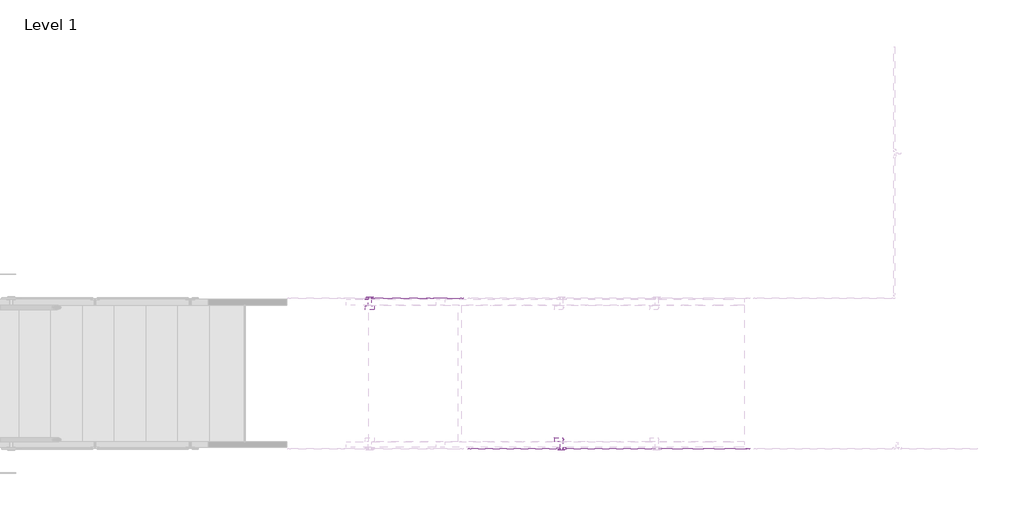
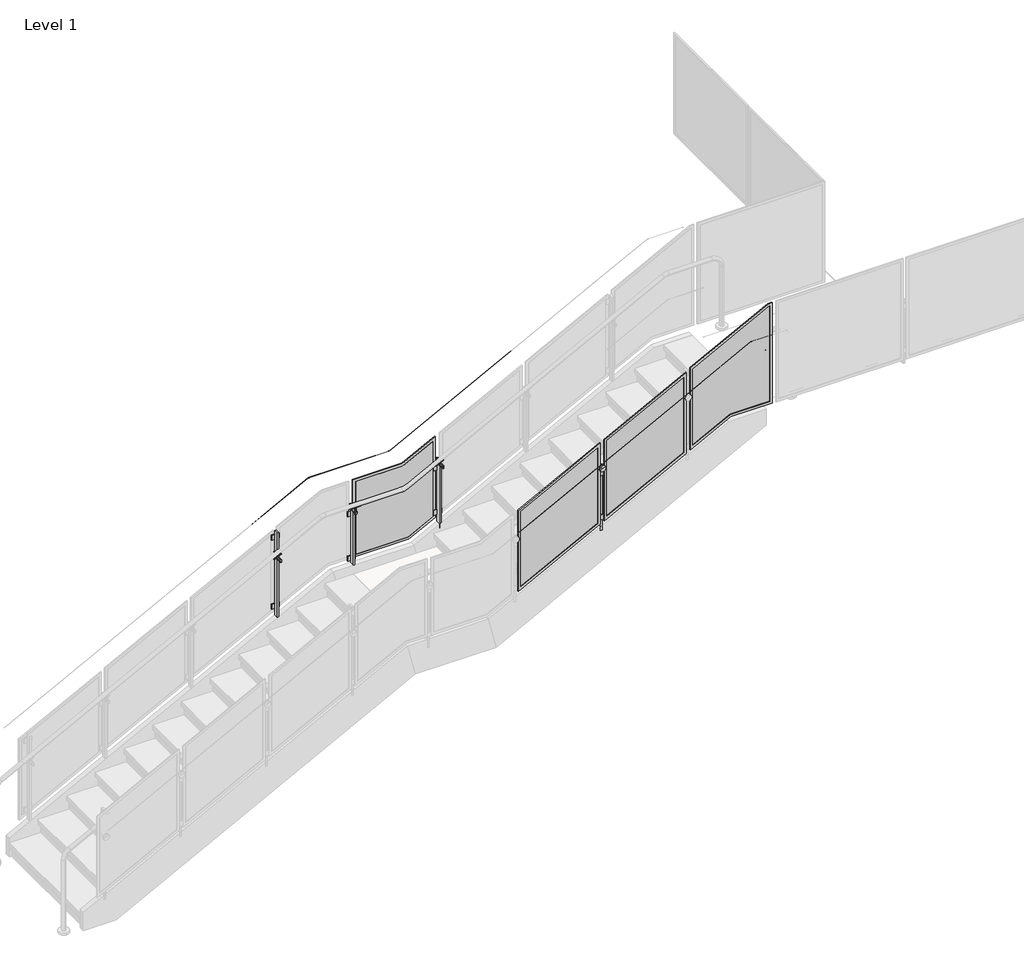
# One storey, part 7 of 28: 4 railings.
"""IFC4 building model written with IfcOpenShell, lengths in millimetres."""

from ifc_helpers import new_model, si_unit, point, frame, frame_2d, origin, place, context, project, spatial, polyline, circle_curve, ellipse_curve, trimmed, segment, composite_curve, outline, extrude, transform, mapped, element, save
from ifc_brep_helpers import plane_surface, cylinder_surface, advanced_brep
from components import standard_pp01_3f05e8e4, standard_pp01_bbce697f

model = new_model("IFC4")

# Units and contexts
model_context = context("Model", 3, world=origin())
ifc_project = project(units=[si_unit("LENGTHUNIT", "METRE", prefix="MILLI")], contexts=[model_context])

# Site, building, storey
site = spatial("IfcSite", under=ifc_project)
building = spatial("IfcBuilding", under=site)
storey = spatial("IfcBuildingStorey", under=building, Name="Level 1", Elevation=0.0)

# Railings
placement = place(None, origin())
element("IfcRailing", 1, ObjectType="Metal-Panel-VIVA-STRUC-Slab-Top-Weld-Stairs-Upper", at=placement, inside=storey, context=model_context, shape_type="SolidModel", body=[
    advanced_brep(
    [(-14795.2265621, -31698.1375116, 2849.6818907), (-14795.2265621, -31697.1375116, 2849.6818907), (-13118.8265621, -31698.1375116, 3720.5390336), (-13118.8265621, -31697.1375116, 3720.5390336)],
    [
        (0, 1, ellipse_curve(frame((-14795.2265621, -31697.6375116, 2849.6818907), z_axis=(-1.0, 0.0, 0.0), x_axis=(0.0, 0.0, -1.0)), 0.5634403, 0.5)),
        (1, 0, ellipse_curve(frame((-14795.2265621, -31697.6375116, 2849.6818907), z_axis=(-1.0, 0.0, 0.0), x_axis=(0.0, 0.0, -1.0)), 0.5634403, 0.5)),
        (2, 3, ellipse_curve(frame((-13118.8265621, -31697.6375116, 3720.5390336), z_axis=(1.0, 0.0, 0.0), x_axis=(0.0, 0.0, -1.0)), 0.5634403, 0.5)),
        (3, 2, ellipse_curve(frame((-13118.8265621, -31697.6375116, 3720.5390336), z_axis=(1.0, 0.0, 0.0), x_axis=(0.0, 0.0, -1.0)), 0.5634403, 0.5)),
        (0, 2),
        (3, 1),
    ],
    [
        plane_surface(frame((-14795.2265621, -31697.6375116, 2850.2453311), z_axis=(-1.0, 0.0, 0.0), x_axis=(0.0, 1.0, 0.0))),
        plane_surface(frame((-13118.8265621, -31697.6375116, 3721.1024739), z_axis=(1.0, 0.0, 0.0), x_axis=(0.0, 1.0, 0.0))),
        cylinder_surface(frame((-14794.9960672, -31697.6375116, 2849.8016284), z_axis=(-0.8874054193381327, 0.0, -0.46098982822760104), x_axis=(0.0, 1.0, 0.0)), 0.5),
    ],
    [
        (0, [[1, 2]]),
        (1, [[3, 4]]),
        (2, [[-1, 5, -4, 6]]),
        (2, [[-2, -6, -3, -5]]),
    ],
),
    extrude(outline(polyline([(3277.7457144, -13912.5806052), (2501.7575082, -13912.5806052), (2891.008462, -13163.2725191), (3666.9966682, -13163.2725191), (3277.7457144, -13912.5806052)])), frame((0.0, -31482.9865116, 0.0), z_axis=(0.0, 1.0, 0.0), x_axis=(0.0, 0.0, 1.0)), (0.0, 0.0, 1.0), 3.0),
    extrude(outline(polyline([(2459.9399344, -13937.9806052), (2875.5804986, -13137.8725191), (3708.8142421, -13137.8725191), (3293.1736778, -13937.9806052), (2459.9399344, -13937.9806052)]), holes=[polyline([(3277.7457144, -13912.5806052), (3666.9966682, -13163.2725191), (2891.008462, -13163.2725191), (2501.7575082, -13912.5806052), (3277.7457144, -13912.5806052)])]), frame((0.0, -31489.5115116, 0.0), z_axis=(0.0, 1.0, 0.0), x_axis=(0.0, 0.0, 1.0)), (0.0, 0.0, 1.0), 9.525),
    extrude(outline(polyline([(-13995.1272814, -31472.8759116), (-13918.9258429, -31472.8759116), (-13918.9258429, -31479.9879116), (-13995.1272814, -31479.9879116), (-13995.1272814, -31472.8759116)])), frame((0.0, 0.0, 2928.5499025), z_axis=(0.0, 0.0, 1.0), x_axis=(1.0, 0.0, 0.0)), (0.0, 0.0, 1.0), 50.8),
    extrude(outline(polyline([(-13995.1272814, -31472.8759116), (-13918.9258429, -31472.8759116), (-13918.9258429, -31479.9879116), (-13995.1272814, -31479.9879116), (-13995.1272814, -31472.8759116)])), frame((0.0, 0.0, 2471.3499025), z_axis=(0.0, 0.0, 1.0), x_axis=(1.0, 0.0, 0.0)), (0.0, 0.0, 1.0), 50.8),
    extrude(outline(composite_curve([segment(polyline([(2.9997399, 0.0), (0.0, 0.0)]), True, "CONTINUOUS"), segment(trimmed(circle_curve(frame_2d((-19.0451472, -1e-07)), 19.0451471), [point((0.0, 0.0))], [point((-23.6280664, 18.4855208))], True, "CARTESIAN"), True, "CONTINUOUS"), segment(polyline([(-23.6280664, 18.4855208), (-24.3499073, 21.3971159)]), True, "CONTINUOUS"), segment(trimmed(circle_curve(frame_2d((-19.0451472, -1e-07)), 22.0448871), [point((-24.3499073, 21.3971159))], [point((2.9997399, 0.0))], False, "CARTESIAN"), True, "CONTINUOUS")], self_intersect=False)), frame((-14019.5142726, -31418.7879116, 3044.0256993), z_axis=(0.8874054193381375, 0.0, 0.4609898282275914), x_axis=(0.2840545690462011, -0.7876022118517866, -0.5468050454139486)), (0.0, 0.0, 1.0), 79.1184357),
    advanced_brep(
    [(-13944.6293845, -31403.7879116, 2985.6859356), (-13944.6293845, -31410.9316616, 2985.6859356), (-13944.6293845, -31396.6441616, 2985.6859356), (-13980.4886307, -31410.9316616, 3054.7149846), (-13980.4886307, -31403.7879116, 3054.7149846), (-13980.4886307, -31396.6441616, 3054.7149846)],
    [
        (0, 1),
        (1, 2, circle_curve(frame((-13944.6293845, -31403.7879116, 2985.6859356), z_axis=(0.46098982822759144, 0.0, -0.8874054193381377), x_axis=(0.0, 1.0000000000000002, 0.0)), 7.14375)),
        (2, 0),
        (3, 4),
        (4, 5),
        (5, 3, circle_curve(frame((-13980.4886307, -31403.7879116, 3054.7149846), z_axis=(-0.46098982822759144, 0.0, 0.8874054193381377), x_axis=(0.0, 1.0000000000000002, 0.0)), 7.14375)),
        (2, 1, circle_curve(frame((-13944.6293845, -31403.7879116, 2985.6859356), z_axis=(0.46098982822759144, 0.0, -0.8874054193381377), x_axis=(0.0, 1.0000000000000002, 0.0)), 7.14375)),
        (3, 5, circle_curve(frame((-13980.4886307, -31403.7879116, 3054.7149846), z_axis=(-0.46098982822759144, 0.0, 0.8874054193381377), x_axis=(0.0, 1.0000000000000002, 0.0)), 7.14375)),
        (1, 3),
        (5, 2),
    ],
    [
        plane_surface(frame((-13944.6293845, -31403.7879116, 2985.6859356), z_axis=(0.46098982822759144, 0.0, -0.8874054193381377), x_axis=(0.0, 1.0, 0.0))),
        plane_surface(frame((-13980.4886307, -31403.7879116, 3054.7149846), z_axis=(-0.46098982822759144, 0.0, 0.8874054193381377), x_axis=(0.0, 1.0, 0.0))),
        cylinder_surface(frame((-13827.6751846, -31403.7879116, 2760.5491008), z_axis=(0.46098982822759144, 0.0, -0.8874054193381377), x_axis=(0.0, 1.0000000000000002, 0.0)), 7.14375),
    ],
    [
        (0, [[1, 2, 3]]),
        (1, [[4, 5, 6]]),
        (0, [[-3, 7, -1]]),
        (1, [[-5, -4, 8]]),
        (2, [[9, -6, 10, -2]]),
        (2, [[-10, -8, -9, -7]]),
    ],
),
    advanced_brep(
    [(-13983.7929281, -31489.5129116, 2995.6458968), (-13962.6615865, -31489.5129116, 3006.6232171), (-13951.3915377, -31489.5129116, 3012.4777879), (-13930.2601962, -31489.5129116, 3023.4551082), (-13983.7929281, -31497.4504116, 2995.6458968), (-13930.2601962, -31497.4504116, 3023.4551082), (-13983.7929281, -31472.0504116, 2995.6458968), (-13968.2966109, -31472.0504116, 3003.6959317), (-13945.7565133, -31472.0504116, 3015.4050733), (-13930.2601962, -31472.0504116, 3023.4551082), (-13983.7929281, -31479.9879116, 2995.6458968), (-13930.2601962, -31479.9879116, 3023.4551082), (-13957.0265621, -31497.4504116, 3009.5505025), (-13968.2966109, -31392.6754116, 3003.6959317), (-13957.0265621, -31392.6754116, 3009.5505025), (-13945.7565133, -31392.6754116, 3015.4050733), (-13962.6615865, -31479.9879116, 3006.6232171), (-13951.3915377, -31479.9879116, 3012.4777879)],
    [
        (0, 1),
        (1, 2, circle_curve(frame((-13957.0265621, -31489.5129116, 3009.5505025), z_axis=(0.0, -1.0, 0.0), x_axis=(0.8874054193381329, 0.0, 0.46098982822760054)), 6.35)),
        (2, 3),
        (3, 0, circle_curve(frame((-13957.0265621, -31489.5129116, 3009.5505025), z_axis=(0.0, 1.0, 0.0), x_axis=(0.8874054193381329, 0.0, 0.46098982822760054)), 30.1625)),
        (4, 0),
        (3, 5),
        (5, 4, circle_curve(frame((-13957.0265621, -31497.4504116, 3009.5505025), z_axis=(0.0, 1.0, 0.0), x_axis=(0.8874054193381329, 0.0, 0.46098982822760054)), 30.1625)),
        (6, 7),
        (7, 8, circle_curve(frame((-13957.0265621, -31472.0504116, 3009.5505025), z_axis=(0.0, -1.0, 0.0), x_axis=(0.8874054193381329, 0.0, 0.46098982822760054)), 12.7)),
        (8, 9),
        (9, 6, circle_curve(frame((-13957.0265621, -31472.0504116, 3009.5505025), z_axis=(0.0, 1.0, 0.0), x_axis=(0.8874054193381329, 0.0, 0.46098982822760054)), 30.1625)),
        (10, 6),
        (9, 11),
        (11, 10, circle_curve(frame((-13957.0265621, -31479.9879116, 3009.5505025), z_axis=(0.0, 1.0, 0.0), x_axis=(0.8874054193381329, 0.0, 0.46098982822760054)), 30.1625)),
        (3, 0, circle_curve(frame((-13957.0265621, -31489.5129116, 3009.5505025), z_axis=(0.0, -1.0, 0.0), x_axis=(0.8874054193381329, 0.0, 0.46098982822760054)), 30.1625)),
        (4, 5, circle_curve(frame((-13957.0265621, -31497.4504116, 3009.5505025), z_axis=(0.0, 1.0, 0.0), x_axis=(0.8874054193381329, 0.0, 0.46098982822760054)), 30.1625)),
        (12, 4),
        (5, 12),
        (13, 14),
        (14, 15),
        (15, 13, circle_curve(frame((-13957.0265621, -31392.6754116, 3009.5505025), z_axis=(0.0, 1.0, 0.0), x_axis=(0.8874054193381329, 0.0, 0.46098982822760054)), 12.7)),
        (13, 15, circle_curve(frame((-13957.0265621, -31392.6754116, 3009.5505025), z_axis=(0.0, 1.0, 0.0), x_axis=(0.8874054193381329, 0.0, 0.46098982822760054)), 12.7)),
        (7, 13),
        (15, 8),
        (7, 8, circle_curve(frame((-13957.0265621, -31472.0504116, 3009.5505025), z_axis=(0.0, 1.0, 0.0), x_axis=(0.8874054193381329, 0.0, 0.46098982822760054)), 12.7)),
        (6, 9, circle_curve(frame((-13957.0265621, -31472.0504116, 3009.5505025), z_axis=(0.0, 1.0, 0.0), x_axis=(0.8874054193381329, 0.0, 0.46098982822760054)), 30.1625)),
        (10, 11, circle_curve(frame((-13957.0265621, -31479.9879116, 3009.5505025), z_axis=(0.0, 1.0, 0.0), x_axis=(0.8874054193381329, 0.0, 0.46098982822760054)), 30.1625)),
        (16, 10),
        (11, 17),
        (17, 16, circle_curve(frame((-13957.0265621, -31479.9879116, 3009.5505025), z_axis=(0.0, 1.0, 0.0), x_axis=(0.8874054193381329, 0.0, 0.46098982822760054)), 6.35)),
        (16, 17, circle_curve(frame((-13957.0265621, -31479.9879116, 3009.5505025), z_axis=(0.0, 1.0, 0.0), x_axis=(0.8874054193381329, 0.0, 0.46098982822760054)), 6.35)),
        (1, 16),
        (17, 2),
        (1, 2, circle_curve(frame((-13957.0265621, -31489.5129116, 3009.5505025), z_axis=(0.0, 1.0, 0.0), x_axis=(0.8874054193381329, 0.0, 0.46098982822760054)), 6.35)),
    ],
    [
        plane_surface(frame((-13957.0265621, -31489.5129116, 3009.5505025), z_axis=(0.0, 1.0000000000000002, 0.0), x_axis=(0.8874054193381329, 0.0, 0.46098982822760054))),
        cylinder_surface(frame((-13957.0265621, -33003.9879116, 3009.5505025), z_axis=(0.0, -1.0000000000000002, 0.0), x_axis=(0.8874054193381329, 0.0, 0.46098982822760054)), 30.1625),
        plane_surface(frame((-13957.0265621, -31472.0504116, 3009.5505025), z_axis=(0.0, 1.0000000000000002, 0.0), x_axis=(0.8874054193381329, 0.0, 0.46098982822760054))),
        plane_surface(frame((-13957.0265621, -31497.4504116, 3009.5505025), z_axis=(0.0, -1.0000000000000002, 0.0), x_axis=(0.8874054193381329, 0.0, 0.46098982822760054))),
        plane_surface(frame((-13957.0265621, -31392.6754116, 3009.5505025), z_axis=(0.0, 1.0000000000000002, 0.0), x_axis=(0.8874054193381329, 0.0, 0.46098982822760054))),
        cylinder_surface(frame((-13957.0265621, -33003.9879116, 3009.5505025), z_axis=(0.0, -1.0000000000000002, 0.0), x_axis=(0.8874054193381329, 0.0, 0.46098982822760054)), 12.7),
        plane_surface(frame((-13957.0265621, -31479.9879116, 3009.5505025), z_axis=(0.0, -1.0000000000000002, 0.0), x_axis=(0.8874054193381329, 0.0, 0.46098982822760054))),
        cylinder_surface(frame((-13957.0265621, -33003.9879116, 3009.5505025), z_axis=(0.0, -1.0000000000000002, 0.0), x_axis=(0.8874054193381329, 0.0, 0.46098982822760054)), 6.35),
    ],
    [
        (0, [[1, 2, 3, 4]]),
        (1, [[5, -4, 6, 7]]),
        (2, [[8, 9, 10, 11]]),
        (1, [[12, -11, 13, 14]]),
        (1, [[-6, 15, -5, 16]]),
        (3, [[17, -7, 18]]),
        (3, [[-18, -16, -17]]),
        (4, [[19, 20, 21]]),
        (4, [[-20, -19, 22]]),
        (5, [[23, -21, 24, -9]]),
        (5, [[-24, -22, -23, 25]]),
        (2, [[-10, -25, -8, 26]]),
        (1, [[-13, -26, -12, 27]]),
        (6, [[28, -14, 29, 30]]),
        (6, [[-29, -27, -28, 31]]),
        (7, [[32, -30, 33, -2]]),
        (7, [[-33, -31, -32, 34]]),
        (0, [[-3, -34, -1, -15]]),
    ],
),
    extrude(outline(polyline([(-13964.9661538, -31428.4259116), (-13949.0869705, -31428.4259116), (-13949.0869705, -31472.8759116), (-13964.9661538, -31472.8759116), (-13964.9661538, -31428.4259116)])), frame((0.0, 0.0, 2358.5739025), z_axis=(0.0, 0.0, 1.0), x_axis=(1.0, 0.0, 0.0)), (0.0, 0.0, 1.0), 660.4),
    extrude(outline(polyline([(2842.317143, -14750.7806052), (2066.3289368, -14750.7806052), (2455.5798906, -14001.4725191), (3231.5680968, -14001.4725191), (2842.317143, -14750.7806052)])), frame((0.0, -31482.9865116, 0.0), z_axis=(0.0, 1.0, 0.0), x_axis=(0.0, 0.0, 1.0)), (0.0, 0.0, 1.0), 3.0),
    extrude(outline(polyline([(2024.5113629, -14776.1806052), (2440.1519272, -13976.0725191), (3273.3856706, -13976.0725191), (2857.7451064, -14776.1806052), (2024.5113629, -14776.1806052)]), holes=[polyline([(2842.317143, -14750.7806052), (3231.5680968, -14001.4725191), (2455.5798906, -14001.4725191), (2066.3289368, -14750.7806052), (2842.317143, -14750.7806052)])]), frame((0.0, -31489.5115116, 0.0), z_axis=(0.0, 1.0, 0.0), x_axis=(0.0, 0.0, 1.0)), (0.0, 0.0, 1.0), 9.525),
])
element("IfcRailing", 2, ObjectType="Metal-Panel-VIVA-STRUC-Slab-Top-Weld-Stairs-Landing", at=placement, inside=storey, context=model_context, shape_type="SolidModel", body=[
    advanced_brep(
    [(-16484.3313244, -29950.0180259, 2381.2638324), (-16484.3313244, -29949.0180259, 2381.2638324), (-15931.7592018, -29950.0180259, 2668.3142857), (-15931.7592018, -29949.0180259, 2668.3142857), (-15144.3592018, -29950.0180259, 2668.3142857), (-15144.3592018, -29949.0180259, 2668.3142857), (-13959.1395244, -29950.0180259, 3284.0128194), (-13959.1395244, -29949.0180259, 3284.0128194)],
    [
        (0, 1, ellipse_curve(frame((-16484.3313244, -29949.5180259, 2381.2638324), z_axis=(-1.0, 0.0, 0.0), x_axis=(0.0, 0.0, -1.0)), 0.5634403, 0.5)),
        (1, 0, ellipse_curve(frame((-16484.3313244, -29949.5180259, 2381.2638324), z_axis=(-1.0, 0.0, 0.0), x_axis=(0.0, 0.0, -1.0)), 0.5634403, 0.5)),
        (0, 2),
        (2, 3, ellipse_curve(frame((-15931.7592018, -29949.5180259, 2668.3142857), z_axis=(-0.9714436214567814, 0.0, -0.23727050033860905), x_axis=(0.23727050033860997, 0.0, -0.9714436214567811)), 0.5146979, 0.5)),
        (3, 1),
        (3, 2, ellipse_curve(frame((-15931.7592018, -29949.5180259, 2668.3142857), z_axis=(-0.9714436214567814, 0.0, -0.23727050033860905), x_axis=(0.23727050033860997, 0.0, -0.9714436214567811)), 0.5146979, 0.5)),
        (2, 4),
        (4, 5, ellipse_curve(frame((-15144.3592018, -29949.5180259, 2668.3142857), z_axis=(-0.9714436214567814, 0.0, -0.23727050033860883), x_axis=(-0.23727050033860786, 0.0, 0.9714436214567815)), 0.5146979, 0.5)),
        (5, 3),
        (5, 4, ellipse_curve(frame((-15144.3592018, -29949.5180259, 2668.3142857), z_axis=(-0.9714436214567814, 0.0, -0.23727050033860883), x_axis=(-0.23727050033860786, 0.0, 0.9714436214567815)), 0.5146979, 0.5)),
        (6, 7, ellipse_curve(frame((-13959.1395244, -29949.5180259, 3284.0128194), z_axis=(1.0, 0.0, 0.0), x_axis=(0.0, 0.0, -1.0)), 0.5634403, 0.5)),
        (7, 6, ellipse_curve(frame((-13959.1395244, -29949.5180259, 3284.0128194), z_axis=(1.0, 0.0, 0.0), x_axis=(0.0, 0.0, -1.0)), 0.5634403, 0.5)),
        (4, 6),
        (7, 5),
    ],
    [
        plane_surface(frame((-16484.3313244, -29949.5180259, 2381.8272727), z_axis=(-1.0, 0.0, 0.0), x_axis=(0.0, 1.0, 0.0))),
        cylinder_surface(frame((-16484.1008295, -29949.5180259, 2381.38357), z_axis=(-0.8874054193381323, 0.0, -0.4609898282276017), x_axis=(0.0, 1.0, 0.0)), 0.5),
        cylinder_surface(frame((-15931.8813244, -29949.5180259, 2668.3142857), z_axis=(-1.0, 0.0, 0.0), x_axis=(0.0, 1.0, 0.0)), 0.5),
        plane_surface(frame((-13959.1395244, -29949.5180259, 3284.5762597), z_axis=(1.0, 0.0, 0.0), x_axis=(0.0, 1.0, 0.0))),
        cylinder_surface(frame((-15144.2508295, -29949.5180259, 2668.370583), z_axis=(-0.8874054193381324, 0.0, -0.46098982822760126), x_axis=(0.0, 1.0, 0.0)), 0.5),
    ],
    [
        (0, [[1, 2]]),
        (1, [[-1, 3, 4, 5]]),
        (1, [[-2, -5, 6, -3]]),
        (2, [[-4, 7, 8, 9]]),
        (2, [[-6, -9, 10, -7]]),
        (3, [[11, 12]]),
        (4, [[-8, 13, -12, 14]]),
        (4, [[-10, -14, -11, -13]]),
    ],
),
    extrude(outline(polyline([(-14838.9708437, -30174.2796259), (-14838.9708437, -30167.1676259), (-14762.7694052, -30167.1676259), (-14762.7694052, -30174.2796259), (-14838.9708437, -30174.2796259)])), frame((0.0, 0.0, 2490.1896104), z_axis=(0.0, 0.0, 1.0), x_axis=(1.0, 0.0, 0.0)), (0.0, 0.0, 1.0), 50.8),
    extrude(outline(polyline([(-14838.9708437, -30174.2796259), (-14838.9708437, -30167.1676259), (-14762.7694052, -30167.1676259), (-14762.7694052, -30174.2796259), (-14838.9708437, -30174.2796259)])), frame((0.0, 0.0, 2032.9896104), z_axis=(0.0, 0.0, 1.0), x_axis=(1.0, 0.0, 0.0)), (0.0, 0.0, 1.0), 50.8),
    extrude(outline(composite_curve([segment(trimmed(circle_curve(frame_2d((-19.0451472, 1e-07)), 22.0448871), [point((2.9997401, 0.0))], [point((-24.3499072, -21.3971159))], False, "CARTESIAN"), True, "CONTINUOUS"), segment(polyline([(-24.3499072, -21.3971159), (-23.6280664, -18.4855208)]), True, "CONTINUOUS"), segment(trimmed(circle_curve(frame_2d((-19.0451472, 1e-07)), 19.0451471), [point((-23.6280664, -18.4855208))], [point((0.0, 0.0))], True, "CARTESIAN"), True, "CONTINUOUS"), segment(polyline([(0.0, 0.0), (2.9997401, 0.0)]), True, "CONTINUOUS")], self_intersect=False)), frame((-14863.3578349, -30228.3676259, 2605.6654072), z_axis=(0.8874054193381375, 0.0, 0.4609898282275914), x_axis=(0.2840545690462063, 0.7876022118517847, -0.5468050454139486)), (0.0, 0.0, 1.0), 79.1184357),
    advanced_brep(
    [(-14788.4729468, -30243.3676259, 2547.3256434), (-14788.4729468, -30250.5113759, 2547.3256434), (-14788.4729468, -30236.2238759, 2547.3256434), (-14824.3321931, -30236.2238759, 2616.3546925), (-14824.3321931, -30250.5113759, 2616.3546925), (-14824.3321931, -30243.3676259, 2616.3546925)],
    [
        (0, 1),
        (1, 2, circle_curve(frame((-14788.4729468, -30243.3676259, 2547.3256434), z_axis=(0.46098982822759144, 0.0, -0.8874054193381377), x_axis=(0.0, -1.0000000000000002, 0.0)), 7.14375)),
        (2, 0),
        (3, 4, circle_curve(frame((-14824.3321931, -30243.3676259, 2616.3546925), z_axis=(-0.46098982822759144, 0.0, 0.8874054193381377), x_axis=(0.0, -1.0000000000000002, 0.0)), 7.14375)),
        (4, 5),
        (5, 3),
        (2, 1, circle_curve(frame((-14788.4729468, -30243.3676259, 2547.3256434), z_axis=(0.46098982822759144, 0.0, -0.8874054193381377), x_axis=(0.0, -1.0000000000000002, 0.0)), 7.14375)),
        (4, 3, circle_curve(frame((-14824.3321931, -30243.3676259, 2616.3546925), z_axis=(-0.46098982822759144, 0.0, 0.8874054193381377), x_axis=(0.0, -1.0000000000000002, 0.0)), 7.14375)),
        (1, 4),
        (3, 2),
    ],
    [
        plane_surface(frame((-14788.4729468, -30243.3676259, 2547.3256434), z_axis=(0.46098982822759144, 0.0, -0.8874054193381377), x_axis=(0.0, -1.0, 0.0))),
        plane_surface(frame((-14824.3321931, -30243.3676259, 2616.3546925), z_axis=(-0.46098982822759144, 0.0, 0.8874054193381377), x_axis=(0.0, -1.0, 0.0))),
        cylinder_surface(frame((-14671.5187469, -30243.3676259, 2322.1888087), z_axis=(0.46098982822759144, 0.0, -0.8874054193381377), x_axis=(0.0, -1.0000000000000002, 0.0)), 7.14375),
    ],
    [
        (0, [[1, 2, 3]]),
        (1, [[4, 5, 6]]),
        (0, [[-3, 7, -1]]),
        (1, [[8, -6, -5]]),
        (2, [[-2, 9, -4, 10]]),
        (2, [[-7, -10, -8, -9]]),
    ],
),
    advanced_brep(
    [(-14827.6364904, -30157.6426259, 2557.2856047), (-14774.1037585, -30157.6426259, 2585.0948161), (-14795.2351, -30157.6426259, 2574.1174958), (-14806.5051488, -30157.6426259, 2568.262925), (-14827.6364904, -30149.7051259, 2557.2856047), (-14774.1037585, -30149.7051259, 2585.0948161), (-14827.6364904, -30175.1051259, 2557.2856047), (-14774.1037585, -30175.1051259, 2585.0948161), (-14789.6000756, -30175.1051259, 2577.0447812), (-14812.1401733, -30175.1051259, 2565.3356396), (-14827.6364904, -30167.1676259, 2557.2856047), (-14774.1037585, -30167.1676259, 2585.0948161), (-14800.8701244, -30149.7051259, 2571.1902104), (-14812.1401733, -30254.4801259, 2565.3356396), (-14789.6000756, -30254.4801259, 2577.0447812), (-14800.8701244, -30254.4801259, 2571.1902104), (-14806.5051488, -30167.1676259, 2568.262925), (-14795.2351, -30167.1676259, 2574.1174958)],
    [
        (0, 1, circle_curve(frame((-14800.8701244, -30157.6426259, 2571.1902104), z_axis=(0.0, -1.0, 0.0), x_axis=(0.8874054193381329, 0.0, 0.46098982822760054)), 30.1625)),
        (1, 2),
        (2, 3, circle_curve(frame((-14800.8701244, -30157.6426259, 2571.1902104), z_axis=(0.0, 1.0, 0.0), x_axis=(0.8874054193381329, 0.0, 0.46098982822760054)), 6.35)),
        (3, 0),
        (4, 5, circle_curve(frame((-14800.8701244, -30149.7051259, 2571.1902104), z_axis=(0.0, -1.0, 0.0), x_axis=(0.8874054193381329, 0.0, 0.46098982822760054)), 30.1625)),
        (5, 1),
        (0, 4),
        (6, 7, circle_curve(frame((-14800.8701244, -30175.1051259, 2571.1902104), z_axis=(0.0, -1.0, 0.0), x_axis=(0.8874054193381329, 0.0, 0.46098982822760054)), 30.1625)),
        (7, 8),
        (8, 9, circle_curve(frame((-14800.8701244, -30175.1051259, 2571.1902104), z_axis=(0.0, 1.0, 0.0), x_axis=(0.8874054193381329, 0.0, 0.46098982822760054)), 12.7)),
        (9, 6),
        (10, 11, circle_curve(frame((-14800.8701244, -30167.1676259, 2571.1902104), z_axis=(0.0, -1.0, 0.0), x_axis=(0.8874054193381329, 0.0, 0.46098982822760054)), 30.1625)),
        (11, 7),
        (6, 10),
        (5, 4, circle_curve(frame((-14800.8701244, -30149.7051259, 2571.1902104), z_axis=(0.0, -1.0, 0.0), x_axis=(0.8874054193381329, 0.0, 0.46098982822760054)), 30.1625)),
        (0, 1, circle_curve(frame((-14800.8701244, -30157.6426259, 2571.1902104), z_axis=(0.0, 1.0, 0.0), x_axis=(0.8874054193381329, 0.0, 0.46098982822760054)), 30.1625)),
        (12, 5),
        (4, 12),
        (13, 14, circle_curve(frame((-14800.8701244, -30254.4801259, 2571.1902104), z_axis=(0.0, -1.0, 0.0), x_axis=(0.8874054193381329, 0.0, 0.46098982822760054)), 12.7)),
        (14, 15),
        (15, 13),
        (14, 13, circle_curve(frame((-14800.8701244, -30254.4801259, 2571.1902104), z_axis=(0.0, -1.0, 0.0), x_axis=(0.8874054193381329, 0.0, 0.46098982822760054)), 12.7)),
        (8, 14),
        (13, 9),
        (8, 9, circle_curve(frame((-14800.8701244, -30175.1051259, 2571.1902104), z_axis=(0.0, -1.0, 0.0), x_axis=(0.8874054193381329, 0.0, 0.46098982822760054)), 12.7)),
        (7, 6, circle_curve(frame((-14800.8701244, -30175.1051259, 2571.1902104), z_axis=(0.0, -1.0, 0.0), x_axis=(0.8874054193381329, 0.0, 0.46098982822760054)), 30.1625)),
        (11, 10, circle_curve(frame((-14800.8701244, -30167.1676259, 2571.1902104), z_axis=(0.0, -1.0, 0.0), x_axis=(0.8874054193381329, 0.0, 0.46098982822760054)), 30.1625)),
        (16, 17, circle_curve(frame((-14800.8701244, -30167.1676259, 2571.1902104), z_axis=(0.0, -1.0, 0.0), x_axis=(0.8874054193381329, 0.0, 0.46098982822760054)), 6.35)),
        (17, 11),
        (10, 16),
        (17, 16, circle_curve(frame((-14800.8701244, -30167.1676259, 2571.1902104), z_axis=(0.0, -1.0, 0.0), x_axis=(0.8874054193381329, 0.0, 0.46098982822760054)), 6.35)),
        (2, 17),
        (16, 3),
        (2, 3, circle_curve(frame((-14800.8701244, -30157.6426259, 2571.1902104), z_axis=(0.0, -1.0, 0.0), x_axis=(0.8874054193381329, 0.0, 0.46098982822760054)), 6.35)),
    ],
    [
        plane_surface(frame((-14800.8701244, -30157.6426259, 2571.1902104), z_axis=(0.0, -1.0000000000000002, 0.0), x_axis=(0.8874054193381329, 0.0, 0.46098982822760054))),
        cylinder_surface(frame((-14800.8701244, -28643.1676259, 2571.1902104), z_axis=(0.0, 1.0000000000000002, 0.0), x_axis=(0.8874054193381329, 0.0, 0.46098982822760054)), 30.1625),
        plane_surface(frame((-14800.8701244, -30175.1051259, 2571.1902104), z_axis=(0.0, -1.0000000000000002, 0.0), x_axis=(0.8874054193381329, 0.0, 0.46098982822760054))),
        plane_surface(frame((-14800.8701244, -30149.7051259, 2571.1902104), z_axis=(0.0, 1.0000000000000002, 0.0), x_axis=(0.8874054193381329, 0.0, 0.46098982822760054))),
        plane_surface(frame((-14800.8701244, -30254.4801259, 2571.1902104), z_axis=(0.0, -1.0000000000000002, 0.0), x_axis=(0.8874054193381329, 0.0, 0.46098982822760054))),
        cylinder_surface(frame((-14800.8701244, -28643.1676259, 2571.1902104), z_axis=(0.0, 1.0000000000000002, 0.0), x_axis=(0.8874054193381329, 0.0, 0.46098982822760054)), 12.7),
        plane_surface(frame((-14800.8701244, -30167.1676259, 2571.1902104), z_axis=(0.0, 1.0000000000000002, 0.0), x_axis=(0.8874054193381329, 0.0, 0.46098982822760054))),
        cylinder_surface(frame((-14800.8701244, -28643.1676259, 2571.1902104), z_axis=(0.0, 1.0000000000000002, 0.0), x_axis=(0.8874054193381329, 0.0, 0.46098982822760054)), 6.35),
    ],
    [
        (0, [[1, 2, 3, 4]]),
        (1, [[5, 6, -1, 7]]),
        (2, [[8, 9, 10, 11]]),
        (1, [[12, 13, -8, 14]]),
        (1, [[15, -7, 16, -6]]),
        (3, [[17, -5, 18]]),
        (3, [[-18, -15, -17]]),
        (4, [[19, 20, 21]]),
        (4, [[22, -21, -20]]),
        (5, [[-10, 23, -19, 24]]),
        (5, [[25, -24, -22, -23]]),
        (2, [[26, -11, -25, -9]]),
        (1, [[27, -14, -26, -13]]),
        (6, [[28, 29, -12, 30]]),
        (6, [[31, -30, -27, -29]]),
        (7, [[-3, 32, -28, 33]]),
        (7, [[34, -33, -31, -32]]),
        (0, [[-16, -4, -34, -2]]),
    ],
),
    extrude(outline(polyline([(-14808.8097161, -30218.7296259), (-14808.8097161, -30174.2796259), (-14792.9305328, -30174.2796259), (-14792.9305328, -30218.7296259), (-14808.8097161, -30218.7296259)])), frame((0.0, 0.0, 1920.2136104), z_axis=(0.0, 0.0, 1.0), x_axis=(1.0, 0.0, 0.0)), (0.0, 0.0, 1.0), 660.4),
    extrude(outline(polyline([(-15680.7014437, -30174.2796259), (-15680.7014437, -30167.1676259), (-15604.5000052, -30167.1676259), (-15604.5000052, -30174.2796259), (-15680.7014437, -30174.2796259)])), frame((0.0, 0.0, 2311.6902857), z_axis=(0.0, 0.0, 1.0), x_axis=(1.0, 0.0, 0.0)), (0.0, 0.0, 1.0), 50.8),
    extrude(outline(polyline([(-15680.7014437, -30174.2796259), (-15680.7014437, -30167.1676259), (-15604.5000052, -30167.1676259), (-15604.5000052, -30174.2796259), (-15680.7014437, -30174.2796259)])), frame((0.0, 0.0, 1854.4902857), z_axis=(0.0, 0.0, 1.0), x_axis=(1.0, 0.0, 0.0)), (0.0, 0.0, 1.0), 50.8),
    extrude(outline(composite_curve([segment(trimmed(circle_curve(frame_2d((-30243.3676259, 2463.8258766)), 22.0448871), [point((-30226.005024, 2450.2421693))], [point((-30260.7302277, 2450.2421693))], False, "CARTESIAN"), True, "CONTINUOUS"), segment(polyline([(-30260.7302277, 2450.2421693), (-30258.3676259, 2452.0905611)]), True, "CONTINUOUS"), segment(trimmed(circle_curve(frame_2d((-30243.3676259, 2463.8258766)), 19.0451471), [point((-30258.3676259, 2452.0905611))], [point((-30228.3676259, 2452.0905611))], True, "CARTESIAN"), True, "CONTINUOUS"), segment(polyline([(-30228.3676259, 2452.0905611), (-30226.005024, 2450.2421693)]), True, "CONTINUOUS")], self_intersect=False)), frame((-15682.1599423, 0.0, 0.0), z_axis=(1.0, 0.0, 0.0), x_axis=(0.0, 1.0, 0.0)), (0.0, 0.0, 1.0), 79.1184357),
    advanced_brep(
    [(-15642.6007244, -30243.3676259, 2365.7983669), (-15642.6007244, -30250.5113759, 2365.7983669), (-15642.6007244, -30236.2238759, 2365.7983669), (-15642.6007244, -30236.2238759, 2443.5858669), (-15642.6007244, -30250.5113759, 2443.5858669), (-15642.6007244, -30243.3676259, 2443.5858669)],
    [
        (0, 1),
        (1, 2, circle_curve(frame((-15642.6007244, -30243.3676259, 2365.7983669), z_axis=(0.0, 0.0, -1.0), x_axis=(0.0, -1.0, 0.0)), 7.14375)),
        (2, 0),
        (3, 4, circle_curve(frame((-15642.6007244, -30243.3676259, 2443.5858669), z_axis=(0.0, 0.0, 1.0), x_axis=(0.0, -1.0, 0.0)), 7.14375)),
        (4, 5),
        (5, 3),
        (2, 1, circle_curve(frame((-15642.6007244, -30243.3676259, 2365.7983669), z_axis=(0.0, 0.0, -1.0), x_axis=(0.0, -1.0, 0.0)), 7.14375)),
        (4, 3, circle_curve(frame((-15642.6007244, -30243.3676259, 2443.5858669), z_axis=(0.0, 0.0, 1.0), x_axis=(0.0, -1.0, 0.0)), 7.14375)),
        (1, 4),
        (3, 2),
    ],
    [
        plane_surface(frame((-15642.6007244, -30243.3676259, 2365.7983669), z_axis=(0.0, 0.0, -1.0), x_axis=(0.0, -1.0, 0.0))),
        plane_surface(frame((-15642.6007244, -30243.3676259, 2443.5858669), z_axis=(0.0, 0.0, 1.0), x_axis=(0.0, -1.0, 0.0))),
        cylinder_surface(frame((-15642.6007244, -30243.3676259, 2112.0960231), z_axis=(0.0, 0.0, -1.0), x_axis=(0.0, -1.0, 0.0)), 7.14375),
    ],
    [
        (0, [[1, 2, 3]]),
        (1, [[4, 5, 6]]),
        (0, [[-3, 7, -1]]),
        (1, [[8, -6, -5]]),
        (2, [[-2, 9, -4, 10]]),
        (2, [[-7, -10, -8, -9]]),
    ],
),
    advanced_brep(
    [(-15672.7632244, -30157.6426259, 2392.6908857), (-15612.4382244, -30157.6426259, 2392.6908857), (-15636.2507244, -30157.6426259, 2392.6908857), (-15648.9507244, -30157.6426259, 2392.6908857), (-15672.7632244, -30149.7051259, 2392.6908857), (-15612.4382244, -30149.7051259, 2392.6908857), (-15672.7632244, -30175.1051259, 2392.6908857), (-15612.4382244, -30175.1051259, 2392.6908857), (-15629.9007244, -30175.1051259, 2392.6908857), (-15655.3007244, -30175.1051259, 2392.6908857), (-15672.7632244, -30167.1676259, 2392.6908857), (-15612.4382244, -30167.1676259, 2392.6908857), (-15642.6007244, -30149.7051259, 2392.6908857), (-15655.3007244, -30254.4801259, 2392.6908857), (-15629.9007244, -30254.4801259, 2392.6908857), (-15642.6007244, -30254.4801259, 2392.6908857), (-15648.9507244, -30167.1676259, 2392.6908857), (-15636.2507244, -30167.1676259, 2392.6908857)],
    [
        (0, 1, circle_curve(frame((-15642.6007244, -30157.6426259, 2392.6908857), z_axis=(0.0, -1.0, 0.0), x_axis=(1.0, 0.0, 0.0)), 30.1625)),
        (1, 2),
        (2, 3, circle_curve(frame((-15642.6007244, -30157.6426259, 2392.6908857), z_axis=(0.0, 1.0, 0.0), x_axis=(1.0, 0.0, 0.0)), 6.35)),
        (3, 0),
        (4, 5, circle_curve(frame((-15642.6007244, -30149.7051259, 2392.6908857), z_axis=(0.0, -1.0, 0.0), x_axis=(1.0, 0.0, 0.0)), 30.1625)),
        (5, 1),
        (0, 4),
        (6, 7, circle_curve(frame((-15642.6007244, -30175.1051259, 2392.6908857), z_axis=(0.0, -1.0, 0.0), x_axis=(1.0, 0.0, 0.0)), 30.1625)),
        (7, 8),
        (8, 9, circle_curve(frame((-15642.6007244, -30175.1051259, 2392.6908857), z_axis=(0.0, 1.0, 0.0), x_axis=(1.0, 0.0, 0.0)), 12.7)),
        (9, 6),
        (10, 11, circle_curve(frame((-15642.6007244, -30167.1676259, 2392.6908857), z_axis=(0.0, -1.0, 0.0), x_axis=(1.0, 0.0, 0.0)), 30.1625)),
        (11, 7),
        (6, 10),
        (5, 4, circle_curve(frame((-15642.6007244, -30149.7051259, 2392.6908857), z_axis=(0.0, -1.0, 0.0), x_axis=(1.0, 0.0, 0.0)), 30.1625)),
        (0, 1, circle_curve(frame((-15642.6007244, -30157.6426259, 2392.6908857), z_axis=(0.0, 1.0, 0.0), x_axis=(1.0, 0.0, 0.0)), 30.1625)),
        (12, 5),
        (4, 12),
        (13, 14, circle_curve(frame((-15642.6007244, -30254.4801259, 2392.6908857), z_axis=(0.0, -1.0, 0.0), x_axis=(1.0, 0.0, 0.0)), 12.7)),
        (14, 15),
        (15, 13),
        (14, 13, circle_curve(frame((-15642.6007244, -30254.4801259, 2392.6908857), z_axis=(0.0, -1.0, 0.0), x_axis=(1.0, 0.0, 0.0)), 12.7)),
        (8, 14),
        (13, 9),
        (8, 9, circle_curve(frame((-15642.6007244, -30175.1051259, 2392.6908857), z_axis=(0.0, -1.0, 0.0), x_axis=(1.0, 0.0, 0.0)), 12.7)),
        (7, 6, circle_curve(frame((-15642.6007244, -30175.1051259, 2392.6908857), z_axis=(0.0, -1.0, 0.0), x_axis=(1.0, 0.0, 0.0)), 30.1625)),
        (11, 10, circle_curve(frame((-15642.6007244, -30167.1676259, 2392.6908857), z_axis=(0.0, -1.0, 0.0), x_axis=(1.0, 0.0, 0.0)), 30.1625)),
        (16, 17, circle_curve(frame((-15642.6007244, -30167.1676259, 2392.6908857), z_axis=(0.0, -1.0, 0.0), x_axis=(1.0, 0.0, 0.0)), 6.35)),
        (17, 11),
        (10, 16),
        (17, 16, circle_curve(frame((-15642.6007244, -30167.1676259, 2392.6908857), z_axis=(0.0, -1.0, 0.0), x_axis=(1.0, 0.0, 0.0)), 6.35)),
        (2, 17),
        (16, 3),
        (2, 3, circle_curve(frame((-15642.6007244, -30157.6426259, 2392.6908857), z_axis=(0.0, -1.0, 0.0), x_axis=(1.0, 0.0, 0.0)), 6.35)),
    ],
    [
        plane_surface(frame((-15642.6007244, -30157.6426259, 2392.6908857), z_axis=(0.0, -1.0, 0.0), x_axis=(1.0, 0.0, 0.0))),
        cylinder_surface(frame((-15642.6007244, -28643.1676259, 2392.6908857), z_axis=(0.0, 1.0, 0.0), x_axis=(1.0, 0.0, 0.0)), 30.1625),
        plane_surface(frame((-15642.6007244, -30175.1051259, 2392.6908857), z_axis=(0.0, -1.0, 0.0), x_axis=(1.0, 0.0, 0.0))),
        plane_surface(frame((-15642.6007244, -30149.7051259, 2392.6908857), z_axis=(0.0, 1.0, 0.0), x_axis=(1.0, 0.0, 0.0))),
        plane_surface(frame((-15642.6007244, -30254.4801259, 2392.6908857), z_axis=(0.0, -1.0, 0.0), x_axis=(1.0, 0.0, 0.0))),
        cylinder_surface(frame((-15642.6007244, -28643.1676259, 2392.6908857), z_axis=(0.0, 1.0, 0.0), x_axis=(1.0, 0.0, 0.0)), 12.7),
        plane_surface(frame((-15642.6007244, -30167.1676259, 2392.6908857), z_axis=(0.0, 1.0, 0.0), x_axis=(1.0, 0.0, 0.0))),
        cylinder_surface(frame((-15642.6007244, -28643.1676259, 2392.6908857), z_axis=(0.0, 1.0, 0.0), x_axis=(1.0, 0.0, 0.0)), 6.35),
    ],
    [
        (0, [[1, 2, 3, 4]]),
        (1, [[5, 6, -1, 7]]),
        (2, [[8, 9, 10, 11]]),
        (1, [[12, 13, -8, 14]]),
        (1, [[15, -7, 16, -6]]),
        (3, [[17, -5, 18]]),
        (3, [[-18, -15, -17]]),
        (4, [[19, 20, 21]]),
        (4, [[22, -21, -20]]),
        (5, [[-10, 23, -19, 24]]),
        (5, [[25, -24, -22, -23]]),
        (2, [[26, -11, -25, -9]]),
        (1, [[27, -14, -26, -13]]),
        (6, [[28, 29, -12, 30]]),
        (6, [[31, -30, -27, -29]]),
        (7, [[-3, 32, -28, 33]]),
        (7, [[34, -33, -31, -32]]),
        (0, [[-16, -4, -34, -2]]),
    ],
),
    extrude(outline(polyline([(-15650.5403161, -30218.7296259), (-15650.5403161, -30174.2796259), (-15634.6611328, -30174.2796259), (-15634.6611328, -30218.7296259), (-15650.5403161, -30218.7296259)])), frame((0.0, 0.0, 1741.7142857), z_axis=(0.0, 0.0, 1.0), x_axis=(1.0, 0.0, 0.0)), (0.0, 0.0, 1.0), 660.4),
    extrude(outline(polyline([(-16420.8320437, -30174.2796259), (-16420.8320437, -30167.1676259), (-16344.6306052, -30167.1676259), (-16344.6306052, -30174.2796259), (-16420.8320437, -30174.2796259)])), frame((0.0, 0.0, 2331.4824935), z_axis=(0.0, 0.0, 1.0), x_axis=(1.0, 0.0, 0.0)), (0.0, 0.0, 1.0), 50.8),
    extrude(outline(polyline([(-16420.8320437, -30174.2796259), (-16420.8320437, -30167.1676259), (-16344.6306052, -30167.1676259), (-16344.6306052, -30174.2796259), (-16420.8320437, -30174.2796259)])), frame((0.0, 0.0, 1620.2824935), z_axis=(0.0, 0.0, 1.0), x_axis=(1.0, 0.0, 0.0)), (0.0, 0.0, 1.0), 50.8),
    extrude(outline(composite_curve([segment(trimmed(circle_curve(frame_2d((-19.0451472, 1e-07)), 22.0448871), [point((2.99974, 1e-07))], [point((-24.3499072, -21.3971158))], False, "CARTESIAN"), True, "CONTINUOUS"), segment(polyline([(-24.3499072, -21.3971158), (-23.6280664, -18.4855208)]), True, "CONTINUOUS"), segment(trimmed(circle_curve(frame_2d((-19.0451472, 1e-07)), 19.0451471), [point((-23.6280664, -18.4855208))], [point((0.0, 0.0))], True, "CARTESIAN"), True, "CONTINUOUS"), segment(polyline([(0.0, 0.0), (2.99974, 1e-07)]), True, "CONTINUOUS")], self_intersect=False)), frame((-16445.2190349, -30228.3676259, 2192.9582903), z_axis=(0.8874054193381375, 0.0, 0.4609898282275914), x_axis=(0.2840545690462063, 0.7876022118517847, -0.5468050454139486)), (0.0, 0.0, 1.0), 79.1184357),
    advanced_brep(
    [(-16370.3341468, -30243.3676259, 2134.6185266), (-16370.3341468, -30250.5113759, 2134.6185266), (-16370.3341468, -30236.2238759, 2134.6185266), (-16406.1933931, -30236.2238759, 2203.6475756), (-16406.1933931, -30250.5113759, 2203.6475756), (-16406.1933931, -30243.3676259, 2203.6475756)],
    [
        (0, 1),
        (1, 2, circle_curve(frame((-16370.3341468, -30243.3676259, 2134.6185266), z_axis=(0.46098982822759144, 0.0, -0.8874054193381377), x_axis=(0.0, -1.0000000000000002, 0.0)), 7.14375)),
        (2, 0),
        (3, 4, circle_curve(frame((-16406.1933931, -30243.3676259, 2203.6475756), z_axis=(-0.46098982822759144, 0.0, 0.8874054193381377), x_axis=(0.0, -1.0000000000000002, 0.0)), 7.14375)),
        (4, 5),
        (5, 3),
        (2, 1, circle_curve(frame((-16370.3341468, -30243.3676259, 2134.6185266), z_axis=(0.46098982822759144, 0.0, -0.8874054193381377), x_axis=(0.0, -1.0000000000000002, 0.0)), 7.14375)),
        (4, 3, circle_curve(frame((-16406.1933931, -30243.3676259, 2203.6475756), z_axis=(-0.46098982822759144, 0.0, 0.8874054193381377), x_axis=(0.0, -1.0000000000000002, 0.0)), 7.14375)),
        (1, 4),
        (3, 2),
    ],
    [
        plane_surface(frame((-16370.3341468, -30243.3676259, 2134.6185266), z_axis=(0.46098982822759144, 0.0, -0.8874054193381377), x_axis=(0.0, -1.0, 0.0))),
        plane_surface(frame((-16406.1933931, -30243.3676259, 2203.6475756), z_axis=(-0.46098982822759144, 0.0, 0.8874054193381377), x_axis=(0.0, -1.0, 0.0))),
        cylinder_surface(frame((-16253.3799469, -30243.3676259, 1909.4816918), z_axis=(0.46098982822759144, 0.0, -0.8874054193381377), x_axis=(0.0, -1.0000000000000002, 0.0)), 7.14375),
    ],
    [
        (0, [[1, 2, 3]]),
        (1, [[4, 5, 6]]),
        (0, [[-3, 7, -1]]),
        (1, [[8, -6, -5]]),
        (2, [[-2, 9, -4, 10]]),
        (2, [[-7, -10, -8, -9]]),
    ],
),
    advanced_brep(
    [(-16409.4976904, -30157.6426259, 2144.5784878), (-16355.9649585, -30157.6426259, 2172.3876992), (-16377.0963, -30157.6426259, 2161.4103789), (-16388.3663488, -30157.6426259, 2155.5558081), (-16409.4976904, -30149.7051259, 2144.5784878), (-16355.9649585, -30149.7051259, 2172.3876992), (-16409.4976904, -30175.1051259, 2144.5784878), (-16355.9649585, -30175.1051259, 2172.3876992), (-16371.4612756, -30175.1051259, 2164.3376643), (-16394.0013733, -30175.1051259, 2152.6285227), (-16409.4976904, -30167.1676259, 2144.5784878), (-16355.9649585, -30167.1676259, 2172.3876992), (-16382.7313244, -30149.7051259, 2158.4830935), (-16394.0013733, -30254.4801259, 2152.6285227), (-16371.4612756, -30254.4801259, 2164.3376643), (-16382.7313244, -30254.4801259, 2158.4830935), (-16388.3663488, -30167.1676259, 2155.5558081), (-16377.0963, -30167.1676259, 2161.4103789)],
    [
        (0, 1, circle_curve(frame((-16382.7313244, -30157.6426259, 2158.4830935), z_axis=(0.0, -1.0, 0.0), x_axis=(0.8874054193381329, 0.0, 0.46098982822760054)), 30.1625)),
        (1, 2),
        (2, 3, circle_curve(frame((-16382.7313244, -30157.6426259, 2158.4830935), z_axis=(0.0, 1.0, 0.0), x_axis=(0.8874054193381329, 0.0, 0.46098982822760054)), 6.35)),
        (3, 0),
        (4, 5, circle_curve(frame((-16382.7313244, -30149.7051259, 2158.4830935), z_axis=(0.0, -1.0, 0.0), x_axis=(0.8874054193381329, 0.0, 0.46098982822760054)), 30.1625)),
        (5, 1),
        (0, 4),
        (6, 7, circle_curve(frame((-16382.7313244, -30175.1051259, 2158.4830935), z_axis=(0.0, -1.0, 0.0), x_axis=(0.8874054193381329, 0.0, 0.46098982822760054)), 30.1625)),
        (7, 8),
        (8, 9, circle_curve(frame((-16382.7313244, -30175.1051259, 2158.4830935), z_axis=(0.0, 1.0, 0.0), x_axis=(0.8874054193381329, 0.0, 0.46098982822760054)), 12.7)),
        (9, 6),
        (10, 11, circle_curve(frame((-16382.7313244, -30167.1676259, 2158.4830935), z_axis=(0.0, -1.0, 0.0), x_axis=(0.8874054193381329, 0.0, 0.46098982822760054)), 30.1625)),
        (11, 7),
        (6, 10),
        (5, 4, circle_curve(frame((-16382.7313244, -30149.7051259, 2158.4830935), z_axis=(0.0, -1.0, 0.0), x_axis=(0.8874054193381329, 0.0, 0.46098982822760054)), 30.1625)),
        (0, 1, circle_curve(frame((-16382.7313244, -30157.6426259, 2158.4830935), z_axis=(0.0, 1.0, 0.0), x_axis=(0.8874054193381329, 0.0, 0.46098982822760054)), 30.1625)),
        (12, 5),
        (4, 12),
        (13, 14, circle_curve(frame((-16382.7313244, -30254.4801259, 2158.4830935), z_axis=(0.0, -1.0, 0.0), x_axis=(0.8874054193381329, 0.0, 0.46098982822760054)), 12.7)),
        (14, 15),
        (15, 13),
        (14, 13, circle_curve(frame((-16382.7313244, -30254.4801259, 2158.4830935), z_axis=(0.0, -1.0, 0.0), x_axis=(0.8874054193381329, 0.0, 0.46098982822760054)), 12.7)),
        (8, 14),
        (13, 9),
        (8, 9, circle_curve(frame((-16382.7313244, -30175.1051259, 2158.4830935), z_axis=(0.0, -1.0, 0.0), x_axis=(0.8874054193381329, 0.0, 0.46098982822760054)), 12.7)),
        (7, 6, circle_curve(frame((-16382.7313244, -30175.1051259, 2158.4830935), z_axis=(0.0, -1.0, 0.0), x_axis=(0.8874054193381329, 0.0, 0.46098982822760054)), 30.1625)),
        (11, 10, circle_curve(frame((-16382.7313244, -30167.1676259, 2158.4830935), z_axis=(0.0, -1.0, 0.0), x_axis=(0.8874054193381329, 0.0, 0.46098982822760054)), 30.1625)),
        (16, 17, circle_curve(frame((-16382.7313244, -30167.1676259, 2158.4830935), z_axis=(0.0, -1.0, 0.0), x_axis=(0.8874054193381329, 0.0, 0.46098982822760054)), 6.35)),
        (17, 11),
        (10, 16),
        (17, 16, circle_curve(frame((-16382.7313244, -30167.1676259, 2158.4830935), z_axis=(0.0, -1.0, 0.0), x_axis=(0.8874054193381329, 0.0, 0.46098982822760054)), 6.35)),
        (2, 17),
        (16, 3),
        (2, 3, circle_curve(frame((-16382.7313244, -30157.6426259, 2158.4830935), z_axis=(0.0, -1.0, 0.0), x_axis=(0.8874054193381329, 0.0, 0.46098982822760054)), 6.35)),
    ],
    [
        plane_surface(frame((-16382.7313244, -30157.6426259, 2158.4830935), z_axis=(0.0, -1.0000000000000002, 0.0), x_axis=(0.8874054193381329, 0.0, 0.46098982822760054))),
        cylinder_surface(frame((-16382.7313244, -28643.1676259, 2158.4830935), z_axis=(0.0, 1.0000000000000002, 0.0), x_axis=(0.8874054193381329, 0.0, 0.46098982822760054)), 30.1625),
        plane_surface(frame((-16382.7313244, -30175.1051259, 2158.4830935), z_axis=(0.0, -1.0000000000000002, 0.0), x_axis=(0.8874054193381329, 0.0, 0.46098982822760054))),
        plane_surface(frame((-16382.7313244, -30149.7051259, 2158.4830935), z_axis=(0.0, 1.0000000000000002, 0.0), x_axis=(0.8874054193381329, 0.0, 0.46098982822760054))),
        plane_surface(frame((-16382.7313244, -30254.4801259, 2158.4830935), z_axis=(0.0, -1.0000000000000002, 0.0), x_axis=(0.8874054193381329, 0.0, 0.46098982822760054))),
        cylinder_surface(frame((-16382.7313244, -28643.1676259, 2158.4830935), z_axis=(0.0, 1.0000000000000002, 0.0), x_axis=(0.8874054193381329, 0.0, 0.46098982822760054)), 12.7),
        plane_surface(frame((-16382.7313244, -30167.1676259, 2158.4830935), z_axis=(0.0, 1.0000000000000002, 0.0), x_axis=(0.8874054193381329, 0.0, 0.46098982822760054))),
        cylinder_surface(frame((-16382.7313244, -28643.1676259, 2158.4830935), z_axis=(0.0, 1.0000000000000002, 0.0), x_axis=(0.8874054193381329, 0.0, 0.46098982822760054)), 6.35),
    ],
    [
        (0, [[1, 2, 3, 4]]),
        (1, [[5, 6, -1, 7]]),
        (2, [[8, 9, 10, 11]]),
        (1, [[12, 13, -8, 14]]),
        (1, [[15, -7, 16, -6]]),
        (3, [[17, -5, 18]]),
        (3, [[-18, -15, -17]]),
        (4, [[19, 20, 21]]),
        (4, [[22, -21, -20]]),
        (5, [[-10, 23, -19, 24]]),
        (5, [[25, -24, -22, -23]]),
        (2, [[26, -11, -25, -9]]),
        (1, [[27, -14, -26, -13]]),
        (6, [[28, 29, -12, 30]]),
        (6, [[31, -30, -27, -29]]),
        (7, [[-3, 32, -28, 33]]),
        (7, [[34, -33, -31, -32]]),
        (0, [[-16, -4, -34, -2]]),
    ],
),
    extrude(outline(polyline([(-16390.6709161, -30218.7296259), (-16390.6709161, -30174.2796259), (-16374.7917328, -30174.2796259), (-16374.7917328, -30218.7296259), (-16390.6709161, -30218.7296259)])), frame((0.0, 0.0, 1507.5064935), z_axis=(0.0, 0.0, 1.0), x_axis=(1.0, 0.0, 0.0)), (0.0, 0.0, 1.0), 914.4),
])
standard_pp01_shape = standard_pp01_3f05e8e4(model_context)
element("IfcRailing", 3, ObjectType="Baluster-Landing-Panel-VIVA-STRUC-Lower : Standard_PP01", at=placement, inside=storey, context=model_context, shape_type="MappedRepresentation", body=[
    mapped(standard_pp01_shape, transform((-13099.7710806, -31497.4266721, 3204.6365237), x_axis=(0.0, 1.0, 0.0), y_axis=(-1.0, 0.0, 0.0), z_axis=(0.0, 0.0, 1.0))),
])
standard_pp01_2_shape = standard_pp01_bbce697f(model_context)
element("IfcRailing", 4, ObjectType="Baluster-Landing-Panel-VIVA-STRUC-Upper : Standard_PP01", at=placement, inside=storey, context=model_context, shape_type="MappedRepresentation", body=[
    mapped(standard_pp01_2_shape, transform((-15804.658102, -30101.7192511, 1732.5923434), x_axis=(0.0, -1.0, 0.0), y_axis=(1.0, 0.0, 0.0), z_axis=(0.0, 0.0, 1.0))),
])

save(model, "model.ifc")
